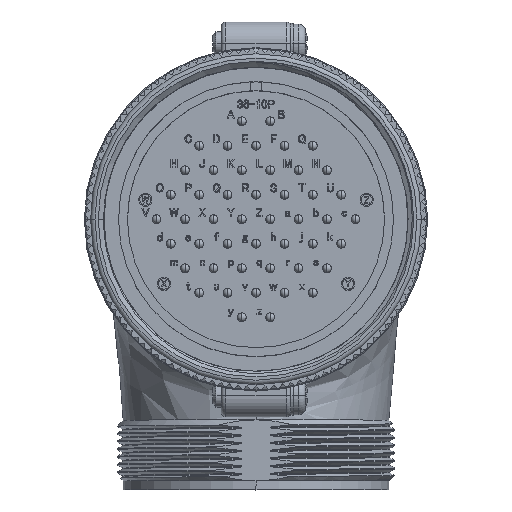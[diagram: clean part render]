
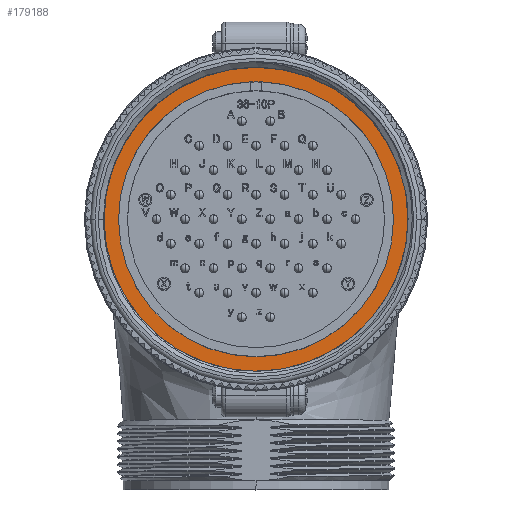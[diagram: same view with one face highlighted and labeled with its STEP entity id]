
A CAD part, top view. The second image highlights one B-rep face of the part: STEP entity #179188.
In plain terms, the highlighted planar face has unit normal (0, 0, 1).
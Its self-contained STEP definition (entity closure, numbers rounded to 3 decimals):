
#4190 = CARTESIAN_POINT ( 'NONE',  ( -27.72, 0., -18.25 ) ) ;
#6142 = CARTESIAN_POINT ( 'NONE',  ( 0., 0., -18.25 ) ) ;
#7910 = EDGE_LOOP ( 'NONE', ( #116911, #153760 ) ) ;
#21331 = DIRECTION ( 'NONE',  ( 1., 0., 0. ) ) ;
#23815 = FACE_OUTER_BOUND ( 'NONE', #152648, .T. ) ;
#25875 = CARTESIAN_POINT ( 'NONE',  ( 0., 0., -18.25 ) ) ;
#37052 = DIRECTION ( 'NONE',  ( 0., 0., 1. ) ) ;
#41030 = DIRECTION ( 'NONE',  ( 1., 0., 0. ) ) ;
#42608 = EDGE_CURVE ( 'NONE', #139082, #73968, #103626, .T. ) ;
#49671 = CARTESIAN_POINT ( 'NONE',  ( -25.08, 0., -18.25 ) ) ;
#66991 = DIRECTION ( 'NONE',  ( 0., 0., 1. ) ) ;
#73968 = VERTEX_POINT ( 'NONE', #4190 ) ;
#76274 = ORIENTED_EDGE ( 'NONE', *, *, #117536, .T. ) ;
#78977 = CARTESIAN_POINT ( 'NONE',  ( 25.08, 0., -18.25 ) ) ;
#85554 = PLANE ( 'NONE',  #178793 ) ;
#87169 = ORIENTED_EDGE ( 'NONE', *, *, #42608, .T. ) ;
#100820 = DIRECTION ( 'NONE',  ( -1., 0., 0. ) ) ;
#103626 = CIRCLE ( 'NONE', #195656, 27.72 ) ;
#104478 = FACE_BOUND ( 'NONE', #7910, .T. ) ;
#110513 = CIRCLE ( 'NONE', #194970, 27.72 ) ;
#111176 = VERTEX_POINT ( 'NONE', #78977 ) ;
#112170 = DIRECTION ( 'NONE',  ( 0., 0., 1. ) ) ;
#116911 = ORIENTED_EDGE ( 'NONE', *, *, #152093, .F. ) ;
#117536 = EDGE_CURVE ( 'NONE', #73968, #139082, #110513, .T. ) ;
#123635 = VERTEX_POINT ( 'NONE', #49671 ) ;
#127906 = CARTESIAN_POINT ( 'NONE',  ( 0., 0., -18.25 ) ) ;
#129093 = AXIS2_PLACEMENT_3D ( 'NONE', #25875, #131908, #41030 ) ;
#130655 = CARTESIAN_POINT ( 'NONE',  ( 0., 27.72, -18.25 ) ) ;
#131908 = DIRECTION ( 'NONE',  ( 0., 0., 1. ) ) ;
#132557 = CARTESIAN_POINT ( 'NONE',  ( 27.72, 0., -18.25 ) ) ;
#136057 = AXIS2_PLACEMENT_3D ( 'NONE', #6142, #112170, #21331 ) ;
#139082 = VERTEX_POINT ( 'NONE', #132557 ) ;
#143169 = DIRECTION ( 'NONE',  ( 1., 0., 0. ) ) ;
#152093 = EDGE_CURVE ( 'NONE', #111176, #123635, #153068, .T. ) ;
#152648 = EDGE_LOOP ( 'NONE', ( #87169, #76274 ) ) ;
#153068 = CIRCLE ( 'NONE', #136057, 25.08 ) ;
#153760 = ORIENTED_EDGE ( 'NONE', *, *, #164834, .F. ) ;
#155757 = CIRCLE ( 'NONE', #129093, 25.08 ) ;
#157837 = CARTESIAN_POINT ( 'NONE',  ( 0., 0., -18.25 ) ) ;
#164834 = EDGE_CURVE ( 'NONE', #123635, #111176, #155757, .T. ) ;
#173107 = DIRECTION ( 'NONE',  ( 1., 0., 0. ) ) ;
#178793 = AXIS2_PLACEMENT_3D ( 'NONE', #130655, #191586, #100820 ) ;
#179188 = ADVANCED_FACE ( 'NONE', ( #104478, #23815 ), #85554, .F. ) ;
#191586 = DIRECTION ( 'NONE',  ( 0., 0., -1. ) ) ;
#194970 = AXIS2_PLACEMENT_3D ( 'NONE', #127906, #37052, #143169 ) ;
#195656 = AXIS2_PLACEMENT_3D ( 'NONE', #157837, #66991, #173107 ) ;
